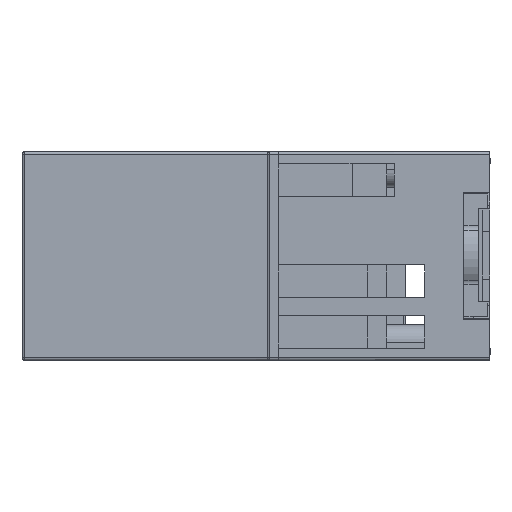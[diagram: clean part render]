
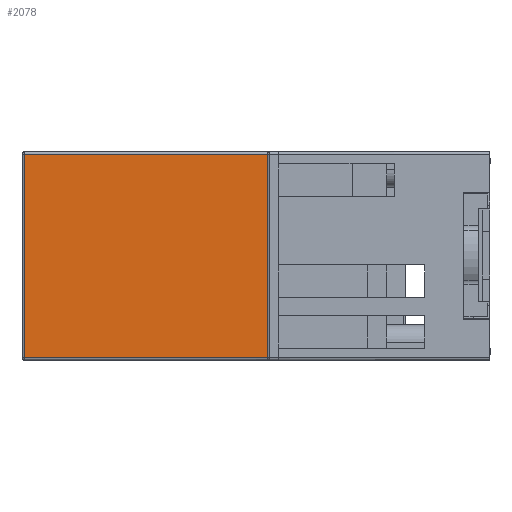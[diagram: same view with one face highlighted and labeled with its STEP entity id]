
A CAD part, left-side view. The second image highlights one B-rep face of the part: STEP entity #2078.
In plain terms, the highlighted planar face has unit normal (-1, 0, 0).
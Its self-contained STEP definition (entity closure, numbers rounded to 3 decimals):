
#956=PLANE('',#25421);
#2078=ADVANCED_FACE('',(#3552),#956,.T.);
#3552=FACE_OUTER_BOUND('',#4778,.T.);
#4778=EDGE_LOOP('',(#13795,#13796,#13797,#13798,#13799,#13800,#13801,#13802,
#13803,#13804));
#6464=LINE('',#47623,#9297);
#7198=LINE('',#49275,#10031);
#7199=LINE('',#49278,#10032);
#7200=LINE('',#49280,#10033);
#7201=LINE('',#49282,#10034);
#7202=LINE('',#49287,#10035);
#7203=LINE('',#49289,#10036);
#7204=LINE('',#49291,#10037);
#9297=VECTOR('',#27689,1.);
#10031=VECTOR('',#28821,1.);
#10032=VECTOR('',#28822,1.);
#10033=VECTOR('',#28823,1.);
#10034=VECTOR('',#28824,1.);
#10035=VECTOR('',#28829,1.);
#10036=VECTOR('',#28830,1.);
#10037=VECTOR('',#28831,1.);
#13795=ORIENTED_EDGE('',*,*,#22518,.T.);
#13796=ORIENTED_EDGE('',*,*,#22519,.T.);
#13797=ORIENTED_EDGE('',*,*,#22520,.T.);
#13798=ORIENTED_EDGE('',*,*,#22521,.F.);
#13799=ORIENTED_EDGE('',*,*,#22522,.T.);
#13800=ORIENTED_EDGE('',*,*,#21725,.T.);
#13801=ORIENTED_EDGE('',*,*,#22523,.T.);
#13802=ORIENTED_EDGE('',*,*,#22524,.T.);
#13803=ORIENTED_EDGE('',*,*,#22525,.F.);
#13804=ORIENTED_EDGE('',*,*,#22526,.T.);
#19287=VERTEX_POINT('',#47622);
#19288=VERTEX_POINT('',#47624);
#19890=VERTEX_POINT('',#49276);
#19891=VERTEX_POINT('',#49277);
#19892=VERTEX_POINT('',#49279);
#19893=VERTEX_POINT('',#49281);
#19894=VERTEX_POINT('',#49283);
#19895=VERTEX_POINT('',#49286);
#19896=VERTEX_POINT('',#49288);
#19897=VERTEX_POINT('',#49290);
#21725=EDGE_CURVE('',#19288,#19287,#6464,.T.);
#22518=EDGE_CURVE('',#19890,#19891,#7198,.T.);
#22519=EDGE_CURVE('',#19891,#19892,#7199,.T.);
#22520=EDGE_CURVE('',#19892,#19893,#7200,.T.);
#22521=EDGE_CURVE('',#19894,#19893,#7201,.T.);
#22522=EDGE_CURVE('',#19894,#19288,#24669,.T.);
#22523=EDGE_CURVE('',#19287,#19895,#24670,.T.);
#22524=EDGE_CURVE('',#19895,#19896,#7202,.T.);
#22525=EDGE_CURVE('',#19897,#19896,#7203,.T.);
#22526=EDGE_CURVE('',#19897,#19890,#7204,.T.);
#24669=CIRCLE('',#25419,0.3);
#24670=CIRCLE('',#25420,0.3);
#25419=AXIS2_PLACEMENT_3D('',#49284,#28825,#28826);
#25420=AXIS2_PLACEMENT_3D('',#49285,#28827,#28828);
#25421=AXIS2_PLACEMENT_3D('',#49292,#28832,#28833);
#27689=DIRECTION('',(0.,0.,1.));
#28821=DIRECTION('',(0.,0.,-1.));
#28822=DIRECTION('',(0.,-1.,0.));
#28823=DIRECTION('',(0.,0.,1.));
#28824=DIRECTION('',(0.,-1.,0.));
#28825=DIRECTION('',(1.,0.,0.));
#28826=DIRECTION('',(0.,-1.,0.));
#28827=DIRECTION('',(1.,0.,0.));
#28828=DIRECTION('',(0.,-1.,0.));
#28829=DIRECTION('',(0.,-1.,0.));
#28830=DIRECTION('',(0.,0.,-1.));
#28831=DIRECTION('',(0.,1.,0.));
#28832=DIRECTION('',(-1.,0.,0.));
#28833=DIRECTION('',(0.,-1.,0.));
#47622=CARTESIAN_POINT('',(-18.588,29.1,10.6));
#47623=CARTESIAN_POINT('',(-18.588,29.1,-13.6));
#47624=CARTESIAN_POINT('',(-18.588,29.1,-10.6));
#49275=CARTESIAN_POINT('',(-18.588,60.8,-13.6));
#49276=CARTESIAN_POINT('',(-18.588,60.8,13.3));
#49277=CARTESIAN_POINT('',(-18.588,60.8,-13.3));
#49278=CARTESIAN_POINT('',(-18.588,61.1,-13.3));
#49279=CARTESIAN_POINT('',(-18.588,22.1,-13.3));
#49280=CARTESIAN_POINT('',(-18.588,22.1,-10.9));
#49281=CARTESIAN_POINT('',(-18.588,22.1,-10.9));
#49282=CARTESIAN_POINT('',(-18.588,29.1,-10.9));
#49283=CARTESIAN_POINT('',(-18.588,28.8,-10.9));
#49284=CARTESIAN_POINT('',(-18.588,28.8,-10.6));
#49285=CARTESIAN_POINT('',(-18.588,28.8,10.6));
#49286=CARTESIAN_POINT('',(-18.588,28.8,10.9));
#49287=CARTESIAN_POINT('',(-18.588,29.1,10.9));
#49288=CARTESIAN_POINT('',(-18.588,22.1,10.9));
#49289=CARTESIAN_POINT('',(-18.588,22.1,10.9));
#49290=CARTESIAN_POINT('',(-18.588,22.1,13.3));
#49291=CARTESIAN_POINT('',(-18.588,61.1,13.3));
#49292=CARTESIAN_POINT('',(-18.588,61.1,-13.6));
